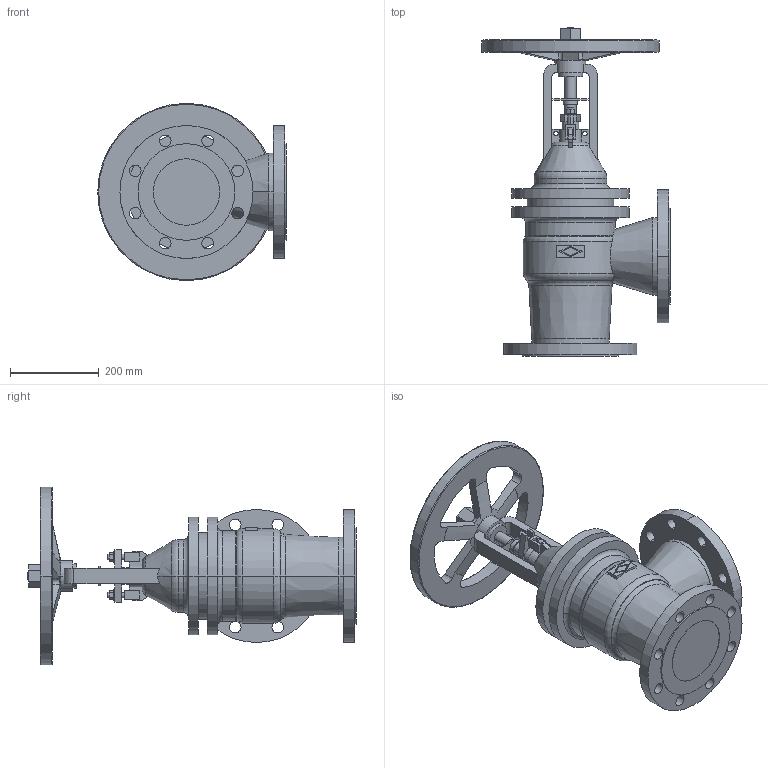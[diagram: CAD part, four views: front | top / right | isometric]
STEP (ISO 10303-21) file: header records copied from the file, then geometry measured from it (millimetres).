
FILE_DESCRIPTION(('OneSpaceDesigner STEP Export'),'2;1');
FILE_NAME('c000004455.stp','2010-05-17T 9:56:01',(''),(''),'OneSpace Designer STEP processor for AP214 (Solid Model)','OneSpace Modeling 15.50B 03-Nov-2007 (C) CoCreate Software GmbH','');
FILE_SCHEMA(('AUTOMOTIVE_DESIGN { 1 0 10303 214 1 1 1 1 }'));
Length unit declared in the file: millimetre
Products named in the file (1): 1
Bounding box: 425 x 740.8 x 400 mm (x, y, z)
Volume: 21489765.4 mm3; surface area: 1070912.4 mm2
Topology: 1 solids, 1 shells, 325 faces, 886 edges, 583 vertices
Faces by surface type: plane 146, cylinder 136, torus 29, cone 14
Entity records: 12800 total; most frequent: CARTESIAN_POINT 2420, ORIENTED_EDGE 1772, DIRECTION 1430, EDGE_CURVE 886, VERTEX_POINT 583, AXIS2_PLACEMENT_3D 499, VECTOR 432, LINE 432
